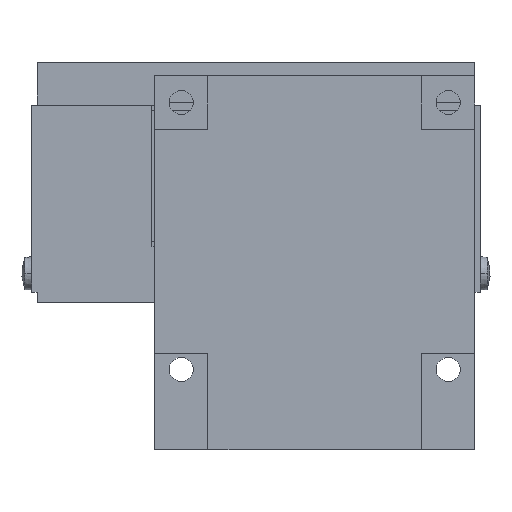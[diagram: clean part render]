
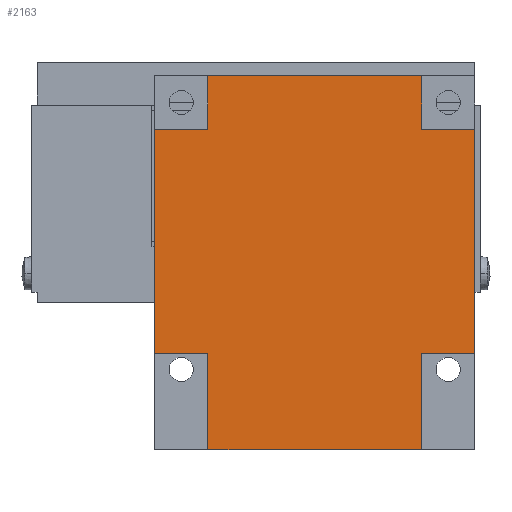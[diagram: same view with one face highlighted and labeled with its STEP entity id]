
A CAD part, front view. The second image highlights one B-rep face of the part: STEP entity #2163.
In plain terms, the highlighted planar face has unit normal (0, -1, 0).
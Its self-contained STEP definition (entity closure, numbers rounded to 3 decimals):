
#1056 = VERTEX_POINT ( 'NONE', #9706 ) ;
#1071 = VERTEX_POINT ( 'NONE', #10335 ) ;
#1073 = EDGE_CURVE ( 'NONE', #1071, #1074, #10334, .T. ) ;
#1074 = VERTEX_POINT ( 'NONE', #10330 ) ;
#1140 = EDGE_CURVE ( 'NONE', #1074, #1177, #10150, .T. ) ;
#1177 = VERTEX_POINT ( 'NONE', #10301 ) ;
#1259 = EDGE_CURVE ( 'NONE', #1287, #1260, #10369, .T. ) ;
#1260 = VERTEX_POINT ( 'NONE', #10365 ) ;
#1287 = VERTEX_POINT ( 'NONE', #10454 ) ;
#1290 = VERTEX_POINT ( 'NONE', #10551 ) ;
#1295 = VERTEX_POINT ( 'NONE', #10539 ) ;
#1324 = EDGE_CURVE ( 'NONE', #1290, #1295, #10554, .T. ) ;
#1644 = VERTEX_POINT ( 'NONE', #11174 ) ;
#1645 = EDGE_CURVE ( 'NONE', #1644, #1290, #11173, .T. ) ;
#1699 = VERTEX_POINT ( 'NONE', #11301 ) ;
#1718 = EDGE_CURVE ( 'NONE', #1056, #1699, #11274, .T. ) ;
#2110 = EDGE_CURVE ( 'NONE', #1177, #1287, #12744, .T. ) ;
#2159 = VERTEX_POINT ( 'NONE', #12637 ) ;
#2161 = EDGE_CURVE ( 'NONE', #2159, #1056, #12636, .T. ) ;
#2163 = ADVANCED_FACE ( 'NONE', ( #12632 ), #12631, .F. ) ;
#2164 = EDGE_LOOP ( 'NONE', ( #2165, #2166, #2167, #2168, #2169, #2172, #2174, #2175, #2176, #2177, #2178, #2180 ) ) ;
#2165 = ORIENTED_EDGE ( 'NONE', *, *, #1645, .F. ) ;
#2166 = ORIENTED_EDGE ( 'NONE', *, *, #2199, .F. ) ;
#2167 = ORIENTED_EDGE ( 'NONE', *, *, #1718, .F. ) ;
#2168 = ORIENTED_EDGE ( 'NONE', *, *, #2161, .F. ) ;
#2169 = ORIENTED_EDGE ( 'NONE', *, *, #2170, .F. ) ;
#2170 = EDGE_CURVE ( 'NONE', #2171, #2159, #12706, .T. ) ;
#2171 = VERTEX_POINT ( 'NONE', #12702 ) ;
#2172 = ORIENTED_EDGE ( 'NONE', *, *, #2173, .F. ) ;
#2173 = EDGE_CURVE ( 'NONE', #1260, #2171, #12701, .T. ) ;
#2174 = ORIENTED_EDGE ( 'NONE', *, *, #1259, .F. ) ;
#2175 = ORIENTED_EDGE ( 'NONE', *, *, #2110, .F. ) ;
#2176 = ORIENTED_EDGE ( 'NONE', *, *, #1140, .F. ) ;
#2177 = ORIENTED_EDGE ( 'NONE', *, *, #1073, .F. ) ;
#2178 = ORIENTED_EDGE ( 'NONE', *, *, #2179, .F. ) ;
#2179 = EDGE_CURVE ( 'NONE', #1295, #1071, #12697, .T. ) ;
#2180 = ORIENTED_EDGE ( 'NONE', *, *, #1324, .F. ) ;
#2199 = EDGE_CURVE ( 'NONE', #1699, #1644, #12597, .T. ) ;
#9371 = DIRECTION ( 'NONE',  ( -1., 0., 0. ) ) ;
#9706 = CARTESIAN_POINT ( 'NONE',  ( 20., 0.5, -22. ) ) ;
#10150 = LINE ( 'NONE', #10205, #10204 ) ;
#10203 = DIRECTION ( 'NONE',  ( 0., 0., 1. ) ) ;
#10204 = VECTOR ( 'NONE', #10203, 1000. ) ;
#10205 = CARTESIAN_POINT ( 'NONE',  ( -20., 0.5, 20. ) ) ;
#10301 = CARTESIAN_POINT ( 'NONE',  ( -20., 0.5, 30. ) ) ;
#10330 = CARTESIAN_POINT ( 'NONE',  ( -20., 0.5, 20. ) ) ;
#10331 = DIRECTION ( 'NONE',  ( 1., 0., 0. ) ) ;
#10332 = VECTOR ( 'NONE', #10331, 1000. ) ;
#10333 = CARTESIAN_POINT ( 'NONE',  ( -30., 0.5, 20. ) ) ;
#10334 = LINE ( 'NONE', #10333, #10332 ) ;
#10335 = CARTESIAN_POINT ( 'NONE',  ( -30., 0.5, 20. ) ) ;
#10365 = CARTESIAN_POINT ( 'NONE',  ( 20., 0.5, 20. ) ) ;
#10366 = DIRECTION ( 'NONE',  ( 0., 0., -1. ) ) ;
#10367 = VECTOR ( 'NONE', #10366, 1000. ) ;
#10368 = CARTESIAN_POINT ( 'NONE',  ( 20., 0.5, 20. ) ) ;
#10369 = LINE ( 'NONE', #10368, #10367 ) ;
#10454 = CARTESIAN_POINT ( 'NONE',  ( 20., 0.5, 30. ) ) ;
#10539 = CARTESIAN_POINT ( 'NONE',  ( -30., 0.5, -22. ) ) ;
#10551 = CARTESIAN_POINT ( 'NONE',  ( -20., 0.5, -22. ) ) ;
#10552 = VECTOR ( 'NONE', #9371, 1000. ) ;
#10553 = CARTESIAN_POINT ( 'NONE',  ( -30., 0.5, -22. ) ) ;
#10554 = LINE ( 'NONE', #10553, #10552 ) ;
#11170 = DIRECTION ( 'NONE',  ( 0., 0., 1. ) ) ;
#11171 = VECTOR ( 'NONE', #11170, 1000. ) ;
#11172 = CARTESIAN_POINT ( 'NONE',  ( -20., 0.5, -40. ) ) ;
#11173 = LINE ( 'NONE', #11172, #11171 ) ;
#11174 = CARTESIAN_POINT ( 'NONE',  ( -20., 0.5, -40. ) ) ;
#11271 = DIRECTION ( 'NONE',  ( 0., 0., -1. ) ) ;
#11272 = VECTOR ( 'NONE', #11271, 1000. ) ;
#11273 = CARTESIAN_POINT ( 'NONE',  ( 20., 0.5, -40. ) ) ;
#11274 = LINE ( 'NONE', #11273, #11272 ) ;
#11301 = CARTESIAN_POINT ( 'NONE',  ( 20., 0.5, -40. ) ) ;
#12594 = DIRECTION ( 'NONE',  ( -1., 0., 0. ) ) ;
#12595 = VECTOR ( 'NONE', #12594, 1000. ) ;
#12596 = CARTESIAN_POINT ( 'NONE',  ( -20., 0.5, -40. ) ) ;
#12597 = LINE ( 'NONE', #12596, #12595 ) ;
#12626 = DIRECTION ( 'NONE',  ( 1., 0., 0. ) ) ;
#12627 = VECTOR ( 'NONE', #12626, 1000. ) ;
#12628 = CARTESIAN_POINT ( 'NONE',  ( -20., 0.5, 30. ) ) ;
#12631 = PLANE ( 'NONE',  #12710 ) ;
#12632 = FACE_OUTER_BOUND ( 'NONE', #2164, .T. ) ;
#12633 = DIRECTION ( 'NONE',  ( -1., 0., 0. ) ) ;
#12634 = VECTOR ( 'NONE', #12633, 1000. ) ;
#12635 = CARTESIAN_POINT ( 'NONE',  ( 20., 0.5, -22. ) ) ;
#12636 = LINE ( 'NONE', #12635, #12634 ) ;
#12637 = CARTESIAN_POINT ( 'NONE',  ( 30., 0.5, -22. ) ) ;
#12694 = DIRECTION ( 'NONE',  ( 0., 0., 1. ) ) ;
#12695 = VECTOR ( 'NONE', #12694, 1000. ) ;
#12696 = CARTESIAN_POINT ( 'NONE',  ( -30., 0.5, -22. ) ) ;
#12697 = LINE ( 'NONE', #12696, #12695 ) ;
#12698 = DIRECTION ( 'NONE',  ( 1., 0., 0. ) ) ;
#12699 = VECTOR ( 'NONE', #12698, 1000. ) ;
#12700 = CARTESIAN_POINT ( 'NONE',  ( 20., 0.5, 20. ) ) ;
#12701 = LINE ( 'NONE', #12700, #12699 ) ;
#12702 = CARTESIAN_POINT ( 'NONE',  ( 30., 0.5, 20. ) ) ;
#12703 = DIRECTION ( 'NONE',  ( 0., 0., -1. ) ) ;
#12704 = VECTOR ( 'NONE', #12703, 1000. ) ;
#12705 = CARTESIAN_POINT ( 'NONE',  ( 30., 0.5, -22. ) ) ;
#12706 = LINE ( 'NONE', #12705, #12704 ) ;
#12707 = DIRECTION ( 'NONE',  ( 0., 0., 1. ) ) ;
#12708 = DIRECTION ( 'NONE',  ( 0., 1., 0. ) ) ;
#12709 = CARTESIAN_POINT ( 'NONE',  ( -20., 0.5, -22. ) ) ;
#12710 = AXIS2_PLACEMENT_3D ( 'NONE', #12709, #12708, #12707 ) ;
#12744 = LINE ( 'NONE', #12628, #12627 ) ;
